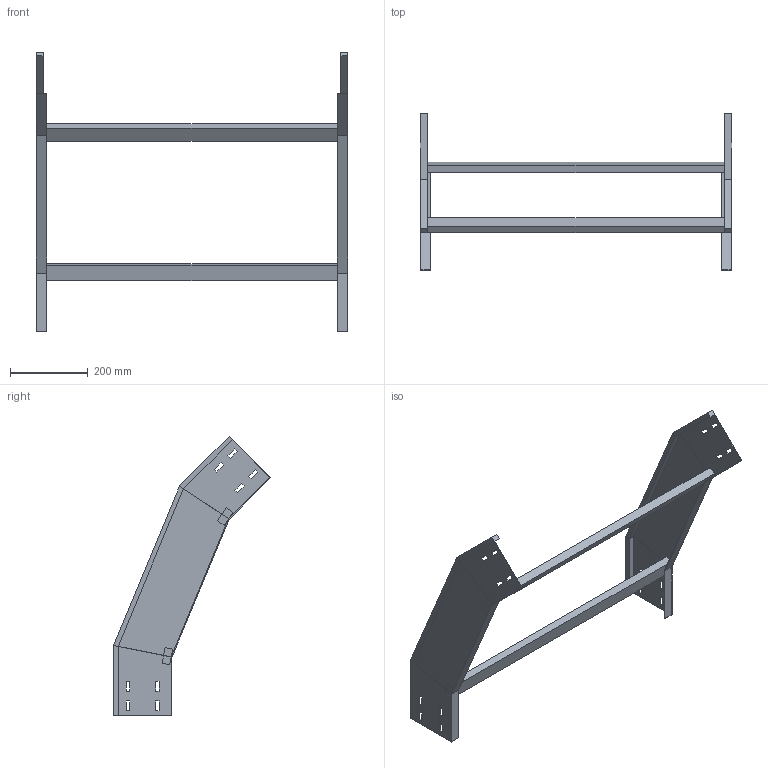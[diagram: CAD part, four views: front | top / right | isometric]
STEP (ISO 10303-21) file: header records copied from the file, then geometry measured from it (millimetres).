
FILE_DESCRIPTION (( 'STEP AP214' ), '1' );
FILE_NAME ('34J5F800.step', '2025-02-21T16:22:19', ( '' ), ( '' ), 'SwSTEP 2.0', 'SolidWorks 2023', '' );
FILE_SCHEMA (( 'AUTOMOTIVE_DESIGN' ));
Length unit declared in the file: millimetre
Products named in the file (3): 34J5F800; LONGH.DISCESA_45°_H150_R500; TRAVERSINO_800
Assembly tree (4 placements, depth 2):
  34J5F800
    LONGH.DISCESA_45°_H150_R500  x2
    TRAVERSINO_800  x2
Bounding box: 800 x 402.63 x 715.98 mm (x, y, z)
Volume: 2102572 mm3; surface area: 763985.9 mm2
Topology: 4 solids, 4 shells, 128 faces, 328 edges, 208 vertices
Faces by surface type: plane 128
Entity records: 2016 total; most frequent: CARTESIAN_POINT 339, ORIENTED_EDGE 328, DIRECTION 306, EDGE_CURVE 164, VECTOR 164, LINE 164, VERTEX_POINT 104, EDGE_LOOP 80
